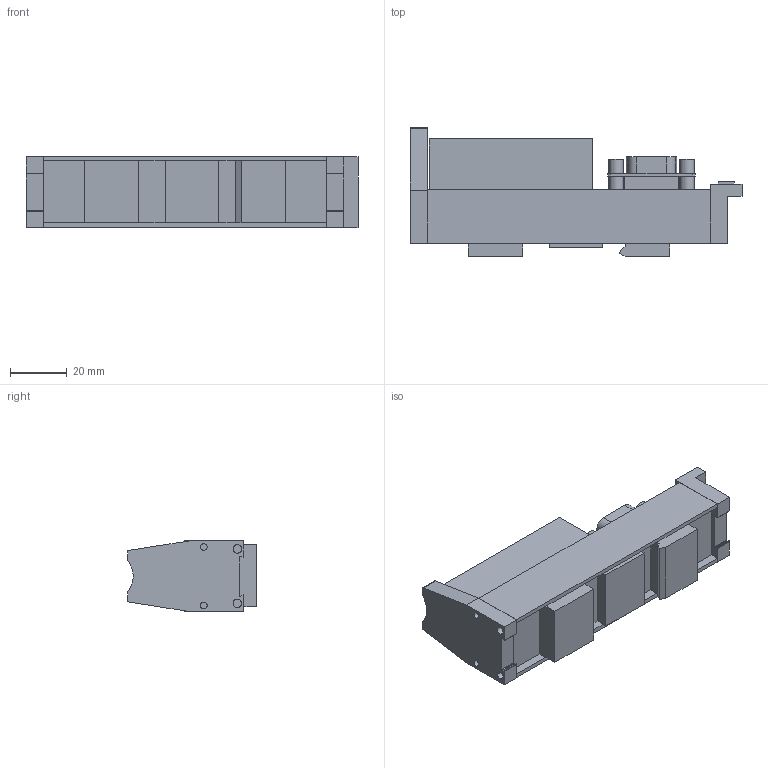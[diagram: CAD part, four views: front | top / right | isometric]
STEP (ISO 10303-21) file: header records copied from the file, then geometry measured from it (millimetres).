
FILE_DESCRIPTION(('SolidDesigner STEP Export'),'2;1');
FILE_NAME('2959560_UM_25_D_9SUB_B_FRONT_Q-select.stp','2010-11-02T14:40:20',(''),(''),'CoCreate Modeling STEP processor for AP214 (Solid Model)','CoCreate Modeling 16.00A 16-Aug-2008 (C) Parametric Technology GmbH','');
FILE_SCHEMA(('AUTOMOTIVE_DESIGN { 1 0 10303 214 1 1 1 1 }'));
Length unit declared in the file: millimetre
Products named in the file (2): 2959560_UM_25_D_9SUB_B_FRONT_Q-select
Assembly tree (1 placements, depth 2):
  2959560_UM_25_D_9SUB_B_FRONT_Q-select
    2959560_UM_25_D_9SUB_B_FRONT_Q-select
Bounding box: 117 x 45.43 x 25.15 mm (x, y, z)
Volume: 77020.1 mm3; surface area: 19442.2 mm2
Topology: 1 solids, 1 shells, 252 faces, 629 edges, 416 vertices
Faces by surface type: plane 168, cylinder 84
Entity records: 7590 total; most frequent: ORIENTED_EDGE 1258, CARTESIAN_POINT 1159, DIRECTION 1041, EDGE_CURVE 629, VECTOR 445, LINE 445, VERTEX_POINT 416, AXIS2_PLACEMENT_3D 298
